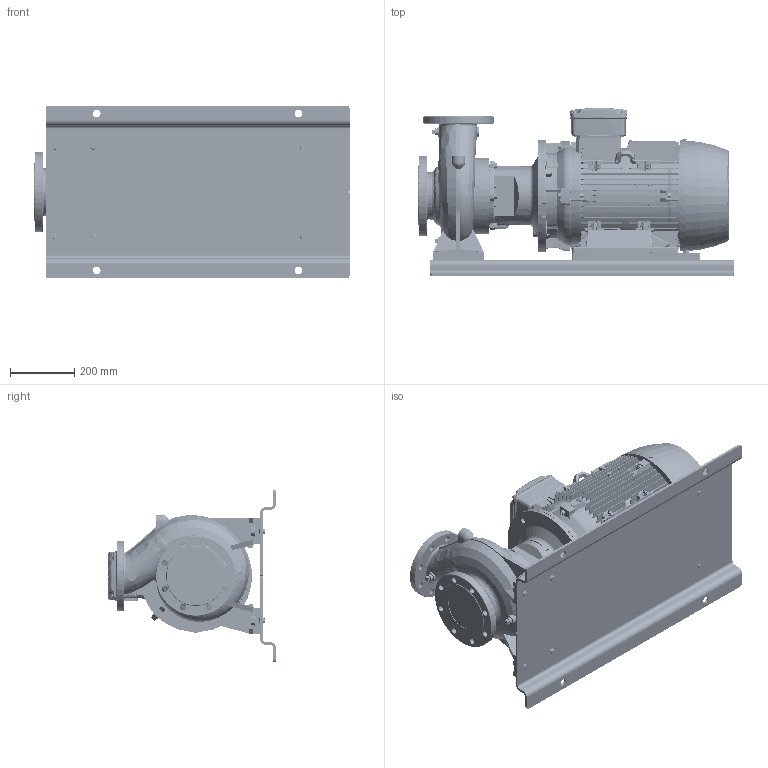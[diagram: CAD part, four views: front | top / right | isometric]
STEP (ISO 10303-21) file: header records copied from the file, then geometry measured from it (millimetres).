
FILE_DESCRIPTION (( 'STEP AP214' ), '1' );
FILE_NAME ('GSD2 100-160_22.0_(180ML)_W21_BP.STEP', '2024-08-02T05:10:39', ( '' ), ( '' ), 'SwSTEP 2.0', 'SolidWorks 2019', '' );
FILE_SCHEMA (( 'AUTOMOTIVE_DESIGN' ));
Length unit declared in the file: millimetre
Products named in the file (20): Parametric bolt and washer_SFT-A305B; Parametric bolt and washer_SFT-A353B; Parametric bolt and washer_SFT-A301B; 65x20 - CGSDA-5261; Parametric Flat Washer_M12; 180M_L ALIE3_W21T_B35; Parametric bolt_SFT-A353B; GSD2  100-160_22.0_(180ML)_W21_BP; 100-160-180M_L_______; Parametric bolt_SFT-A301B; Parametric Flat Washer_M16; Parametric bolt_SFT-A305B; N6S2 GSDA-622 F1-1832935-00
Assembly tree (35 placements, depth 3):
  GSD2  100-160_22.0_(180ML)_W21_BP
    100-160-180M_L_______
    N6S2 GSDA-622 F1-1832935-00
    65x20 - CGSDA-5261  x2
    Parametric bolt and washer_SFT-A353B
      Parametric bolt_SFT-A353B
      Parametric Flat Washer_M16
    Parametric bolt and washer_SFT-A353B
      Parametric bolt_SFT-A353B
      Parametric Flat Washer_M16
    Parametric bolt and washer_SFT-A353B
      Parametric bolt_SFT-A353B
      Parametric Flat Washer_M16
    Parametric bolt and washer_SFT-A353B
      Parametric bolt_SFT-A353B
      Parametric Flat Washer_M16
    Parametric bolt and washer_SFT-A301B
      Parametric bolt_SFT-A301B
      Parametric Flat Washer_M12
    Parametric bolt and washer_SFT-A301B
      Parametric bolt_SFT-A301B
      Parametric Flat Washer_M12
    Parametric bolt and washer_SFT-A305B
      Parametric bolt_SFT-A305B
      Parametric Flat Washer_M12
    Parametric bolt and washer_SFT-A305B
      Parametric bolt_SFT-A305B
      Parametric Flat Washer_M12
    Parametric bolt and washer_SFT-A305B
      Parametric bolt_SFT-A305B
      Parametric Flat Washer_M12
    Parametric bolt and washer_SFT-A305B
      Parametric bolt_SFT-A305B
      Parametric Flat Washer_M12
    180M_L ALIE3_W21T_B35
Bounding box: 985 x 524.53 x 540 mm (x, y, z)
Volume: 70241600 mm3; surface area: 4702276.6 mm2
Topology: 50 solids, 50 shells, 6357 faces, 16518 edges, 10699 vertices
Faces by surface type: plane 3779, cylinder 1214, cone 585, bspline 500, torus 263, sphere 16
Entity records: 243768 total; most frequent: CARTESIAN_POINT 104752, ORIENTED_EDGE 30662, DIRECTION 25598, EDGE_CURVE 15331, VERTEX_POINT 9936, LINE 9614, VECTOR 9614, AXIS2_PLACEMENT_3D 7992
